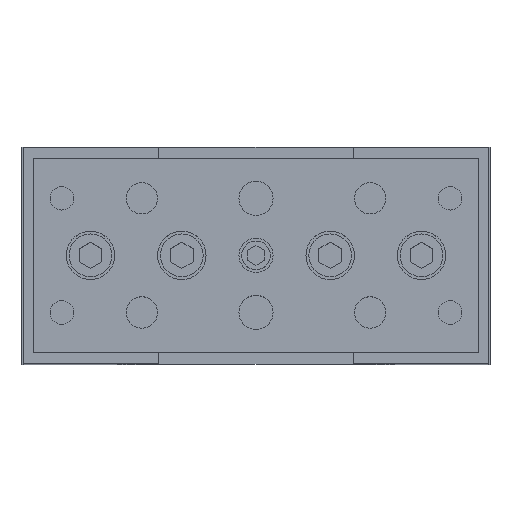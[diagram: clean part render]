
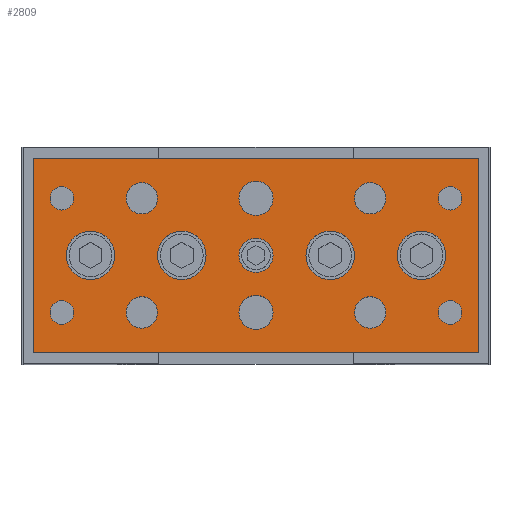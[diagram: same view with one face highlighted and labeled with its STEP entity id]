
A CAD part, top view. The second image highlights one B-rep face of the part: STEP entity #2809.
In plain terms, the highlighted planar face has unit normal (0, 0, 1).
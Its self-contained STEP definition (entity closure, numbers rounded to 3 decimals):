
#770=CARTESIAN_POINT('',(22.75,-10.0,201.0));
#771=VERTEX_POINT('',#770);
#772=CARTESIAN_POINT('',(20.0,-10.0,201.0));
#773=DIRECTION('',(0.0,0.0,-1.0));
#774=DIRECTION('',(-1.0,0.0,0.0));
#775=AXIS2_PLACEMENT_3D('',#772,#773,#774);
#776=CIRCLE('',#775,2.75);
#777=EDGE_CURVE('',#771,#771,#776,.T.);
#880=CARTESIAN_POINT('',(-17.25,-10.0,201.0));
#881=VERTEX_POINT('',#880);
#882=CARTESIAN_POINT('',(-20.0,-10.0,201.0));
#883=DIRECTION('',(0.0,0.0,-1.0));
#884=DIRECTION('',(-1.0,0.0,0.0));
#885=AXIS2_PLACEMENT_3D('',#882,#883,#884);
#886=CIRCLE('',#885,2.75);
#887=EDGE_CURVE('',#881,#881,#886,.T.);
#990=CARTESIAN_POINT('',(22.75,10.0,201.0));
#991=VERTEX_POINT('',#990);
#992=CARTESIAN_POINT('',(20.0,10.0,201.0));
#993=DIRECTION('',(0.0,0.0,-1.0));
#994=DIRECTION('',(-1.0,0.0,0.0));
#995=AXIS2_PLACEMENT_3D('',#992,#993,#994);
#996=CIRCLE('',#995,2.75);
#997=EDGE_CURVE('',#991,#991,#996,.T.);
#1100=CARTESIAN_POINT('',(-17.25,10.0,201.0));
#1101=VERTEX_POINT('',#1100);
#1102=CARTESIAN_POINT('',(-20.0,10.0,201.0));
#1103=DIRECTION('',(0.0,0.0,-1.0));
#1104=DIRECTION('',(-1.0,0.0,0.0));
#1105=AXIS2_PLACEMENT_3D('',#1102,#1103,#1104);
#1106=CIRCLE('',#1105,2.75);
#1107=EDGE_CURVE('',#1101,#1101,#1106,.T.);
#1131=CARTESIAN_POINT('',(3.,-10.0,201.0));
#1132=VERTEX_POINT('',#1131);
#1133=CARTESIAN_POINT('',(0.,-10.0,201.0));
#1134=DIRECTION('',(0.0,0.0,-1.0));
#1135=DIRECTION('',(-1.0,0.0,0.0));
#1136=AXIS2_PLACEMENT_3D('',#1133,#1134,#1135);
#1137=CIRCLE('',#1136,3.);
#1138=EDGE_CURVE('',#1132,#1132,#1137,.T.);
#1168=CARTESIAN_POINT('',(3.,10.0,201.0));
#1169=VERTEX_POINT('',#1168);
#1170=CARTESIAN_POINT('',(0.,10.0,201.0));
#1171=DIRECTION('',(0.0,0.0,-1.0));
#1172=DIRECTION('',(-1.0,0.0,0.0));
#1173=AXIS2_PLACEMENT_3D('',#1170,#1171,#1172);
#1174=CIRCLE('',#1173,3.);
#1175=EDGE_CURVE('',#1169,#1169,#1174,.T.);
#1226=CARTESIAN_POINT('',(-31.933,10.0,201.0));
#1227=VERTEX_POINT('',#1226);
#1228=CARTESIAN_POINT('',(-34.0,10.0,201.0));
#1229=DIRECTION('',(0.0,0.0,-1.0));
#1230=DIRECTION('',(1.0,0.0,0.0));
#1231=AXIS2_PLACEMENT_3D('',#1228,#1229,#1230);
#1232=CIRCLE('',#1231,2.067);
#1233=EDGE_CURVE('',#1227,#1227,#1232,.T.);
#1275=CARTESIAN_POINT('',(36.067,10.0,201.0));
#1276=VERTEX_POINT('',#1275);
#1277=CARTESIAN_POINT('',(34.0,10.0,201.0));
#1278=DIRECTION('',(0.0,0.0,-1.0));
#1279=DIRECTION('',(1.0,0.0,0.0));
#1280=AXIS2_PLACEMENT_3D('',#1277,#1278,#1279);
#1281=CIRCLE('',#1280,2.067);
#1282=EDGE_CURVE('',#1276,#1276,#1281,.T.);
#1324=CARTESIAN_POINT('',(-31.933,-10.0,201.0));
#1325=VERTEX_POINT('',#1324);
#1326=CARTESIAN_POINT('',(-34.0,-10.0,201.0));
#1327=DIRECTION('',(0.0,0.0,-1.0));
#1328=DIRECTION('',(1.0,0.0,0.0));
#1329=AXIS2_PLACEMENT_3D('',#1326,#1327,#1328);
#1330=CIRCLE('',#1329,2.067);
#1331=EDGE_CURVE('',#1325,#1325,#1330,.T.);
#1373=CARTESIAN_POINT('',(36.067,-10.0,201.0));
#1374=VERTEX_POINT('',#1373);
#1375=CARTESIAN_POINT('',(34.0,-10.0,201.0));
#1376=DIRECTION('',(0.0,0.0,-1.0));
#1377=DIRECTION('',(1.0,0.0,0.0));
#1378=AXIS2_PLACEMENT_3D('',#1375,#1376,#1377);
#1379=CIRCLE('',#1378,2.067);
#1380=EDGE_CURVE('',#1374,#1374,#1379,.T.);
#2029=CARTESIAN_POINT('',(3.,0.,201.0));
#2030=VERTEX_POINT('',#2029);
#2031=CARTESIAN_POINT('',(0.,0.0,201.0));
#2032=DIRECTION('',(0.0,0.0,-1.0));
#2033=DIRECTION('',(-1.0,0.0,0.0));
#2034=AXIS2_PLACEMENT_3D('',#2031,#2032,#2033);
#2035=CIRCLE('',#2034,3.);
#2036=EDGE_CURVE('',#2030,#2030,#2035,.T.);
#2097=CARTESIAN_POINT('',(17.25,0.,201.0));
#2098=VERTEX_POINT('',#2097);
#2099=CARTESIAN_POINT('',(13.,0.0,201.0));
#2100=DIRECTION('',(0.0,0.0,-1.0));
#2101=DIRECTION('',(-1.0,0.0,0.0));
#2102=AXIS2_PLACEMENT_3D('',#2099,#2100,#2101);
#2103=CIRCLE('',#2102,4.25);
#2104=EDGE_CURVE('',#2098,#2098,#2103,.T.);
#2165=CARTESIAN_POINT('',(-8.75,0.,201.0));
#2166=VERTEX_POINT('',#2165);
#2167=CARTESIAN_POINT('',(-13.,0.0,201.0));
#2168=DIRECTION('',(0.0,0.0,-1.0));
#2169=DIRECTION('',(-1.0,0.0,0.0));
#2170=AXIS2_PLACEMENT_3D('',#2167,#2168,#2169);
#2171=CIRCLE('',#2170,4.25);
#2172=EDGE_CURVE('',#2166,#2166,#2171,.T.);
#2233=CARTESIAN_POINT('',(33.25,0.,201.0));
#2234=VERTEX_POINT('',#2233);
#2235=CARTESIAN_POINT('',(29.,0.0,201.0));
#2236=DIRECTION('',(0.0,0.0,-1.0));
#2237=DIRECTION('',(-1.0,0.0,0.0));
#2238=AXIS2_PLACEMENT_3D('',#2235,#2236,#2237);
#2239=CIRCLE('',#2238,4.25);
#2240=EDGE_CURVE('',#2234,#2234,#2239,.T.);
#2301=CARTESIAN_POINT('',(-24.75,0.,201.0));
#2302=VERTEX_POINT('',#2301);
#2303=CARTESIAN_POINT('',(-29.,0.0,201.0));
#2304=DIRECTION('',(0.0,0.0,-1.0));
#2305=DIRECTION('',(-1.0,0.0,0.0));
#2306=AXIS2_PLACEMENT_3D('',#2303,#2304,#2305);
#2307=CIRCLE('',#2306,4.25);
#2308=EDGE_CURVE('',#2302,#2302,#2307,.T.);
#2725=CARTESIAN_POINT('',(39.0,0.0,201.0));
#2726=DIRECTION('',(0.0,0.0,1.0));
#2727=DIRECTION('',(1.0,0.0,0.0));
#2728=AXIS2_PLACEMENT_3D('',#2725,#2726,#2727);
#2729=PLANE('',#2728);
#2730=CARTESIAN_POINT('',(39.0,17.0,201.0));
#2731=VERTEX_POINT('',#2730);
#2732=CARTESIAN_POINT('',(-39.0,17.0,201.0));
#2733=VERTEX_POINT('',#2732);
#2734=CARTESIAN_POINT('',(39.0,17.0,201.0));
#2735=DIRECTION('',(-1.0,0.0,0.0));
#2736=VECTOR('',#2735,78.0);
#2737=LINE('',#2734,#2736);
#2738=EDGE_CURVE('',#2731,#2733,#2737,.T.);
#2739=ORIENTED_EDGE('',*,*,#2738,.T.);
#2740=CARTESIAN_POINT('',(-39.0,-17.0,201.0));
#2741=VERTEX_POINT('',#2740);
#2742=CARTESIAN_POINT('',(-39.0,17.0,201.0));
#2743=DIRECTION('',(0.0,-1.0,0.0));
#2744=VECTOR('',#2743,34.0);
#2745=LINE('',#2742,#2744);
#2746=EDGE_CURVE('',#2733,#2741,#2745,.T.);
#2747=ORIENTED_EDGE('',*,*,#2746,.T.);
#2748=CARTESIAN_POINT('',(39.0,-17.0,201.0));
#2749=VERTEX_POINT('',#2748);
#2750=CARTESIAN_POINT('',(-39.0,-17.0,201.0));
#2751=DIRECTION('',(1.0,0.0,0.0));
#2752=VECTOR('',#2751,78.0);
#2753=LINE('',#2750,#2752);
#2754=EDGE_CURVE('',#2741,#2749,#2753,.T.);
#2755=ORIENTED_EDGE('',*,*,#2754,.T.);
#2756=CARTESIAN_POINT('',(39.0,-17.0,201.0));
#2757=DIRECTION('',(0.0,1.0,0.0));
#2758=VECTOR('',#2757,34.0);
#2759=LINE('',#2756,#2758);
#2760=EDGE_CURVE('',#2749,#2731,#2759,.T.);
#2761=ORIENTED_EDGE('',*,*,#2760,.T.);
#2762=EDGE_LOOP('',(#2739,#2747,#2755,#2761));
#2763=FACE_OUTER_BOUND('',#2762,.T.);
#2764=ORIENTED_EDGE('',*,*,#777,.T.);
#2765=EDGE_LOOP('',(#2764));
#2766=FACE_BOUND('',#2765,.T.);
#2767=ORIENTED_EDGE('',*,*,#887,.T.);
#2768=EDGE_LOOP('',(#2767));
#2769=FACE_BOUND('',#2768,.T.);
#2770=ORIENTED_EDGE('',*,*,#997,.T.);
#2771=EDGE_LOOP('',(#2770));
#2772=FACE_BOUND('',#2771,.T.);
#2773=ORIENTED_EDGE('',*,*,#1107,.T.);
#2774=EDGE_LOOP('',(#2773));
#2775=FACE_BOUND('',#2774,.T.);
#2776=ORIENTED_EDGE('',*,*,#1138,.T.);
#2777=EDGE_LOOP('',(#2776));
#2778=FACE_BOUND('',#2777,.T.);
#2779=ORIENTED_EDGE('',*,*,#1175,.T.);
#2780=EDGE_LOOP('',(#2779));
#2781=FACE_BOUND('',#2780,.T.);
#2782=ORIENTED_EDGE('',*,*,#1233,.T.);
#2783=EDGE_LOOP('',(#2782));
#2784=FACE_BOUND('',#2783,.T.);
#2785=ORIENTED_EDGE('',*,*,#1282,.T.);
#2786=EDGE_LOOP('',(#2785));
#2787=FACE_BOUND('',#2786,.T.);
#2788=ORIENTED_EDGE('',*,*,#1331,.T.);
#2789=EDGE_LOOP('',(#2788));
#2790=FACE_BOUND('',#2789,.T.);
#2791=ORIENTED_EDGE('',*,*,#1380,.T.);
#2792=EDGE_LOOP('',(#2791));
#2793=FACE_BOUND('',#2792,.T.);
#2794=ORIENTED_EDGE('',*,*,#2308,.T.);
#2795=EDGE_LOOP('',(#2794));
#2796=FACE_BOUND('',#2795,.T.);
#2797=ORIENTED_EDGE('',*,*,#2240,.T.);
#2798=EDGE_LOOP('',(#2797));
#2799=FACE_BOUND('',#2798,.T.);
#2800=ORIENTED_EDGE('',*,*,#2172,.T.);
#2801=EDGE_LOOP('',(#2800));
#2802=FACE_BOUND('',#2801,.T.);
#2803=ORIENTED_EDGE('',*,*,#2104,.T.);
#2804=EDGE_LOOP('',(#2803));
#2805=FACE_BOUND('',#2804,.T.);
#2806=ORIENTED_EDGE('',*,*,#2036,.T.);
#2807=EDGE_LOOP('',(#2806));
#2808=FACE_BOUND('',#2807,.T.);
#2809=ADVANCED_FACE('',(#2763,#2766,#2769,#2772,#2775,#2778,#2781,#2784,#2787,#2790,#2793,#2796,#2799,#2802,#2805,#2808),#2729,.T.);
